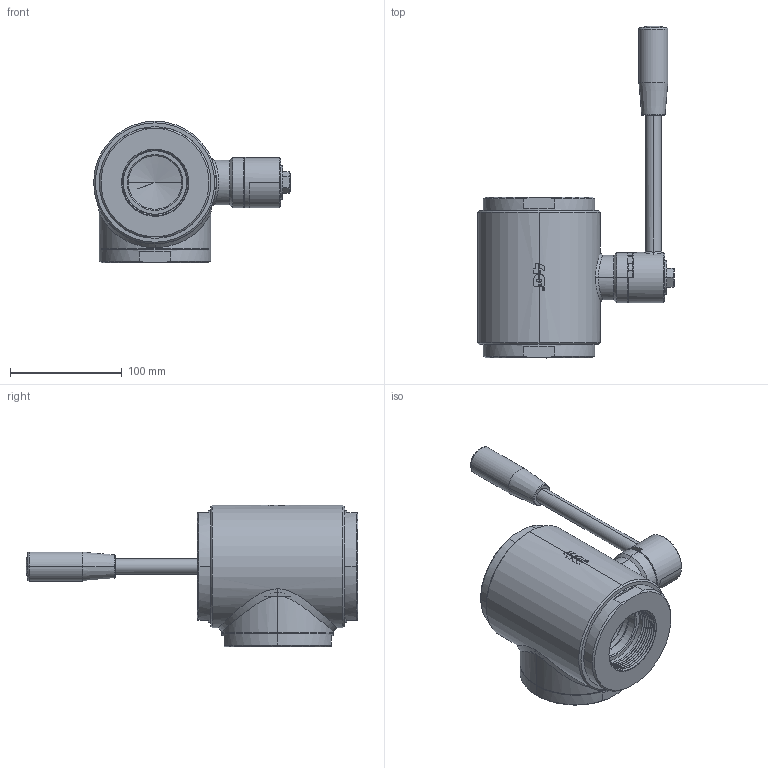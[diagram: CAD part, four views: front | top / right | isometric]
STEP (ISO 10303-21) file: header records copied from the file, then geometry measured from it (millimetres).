
FILE_DESCRIPTION((''),'2;1');
FILE_NAME('31010163810_SW0001','2025-04-11T14:23:24',('tecnico2'),('CDM Tecnoconsulting'),'CREO PARAMETRIC BY PTC INC, 2024063','CREO PARAMETRIC BY PTC INC, 2024063','');
FILE_SCHEMA(('CONFIG_CONTROL_DESIGN','SHAPE_APPEARANCE_LAYERS_GROUPS'));
Products named in the file (1): 31010163810_SW0001
Bounding box: 176.3 x 297.5 x 127 mm (x, y, z)
Volume: 1099826.6 mm3; surface area: 255821.1 mm2
Topology: 1 solids, 2 shells, 1010 faces, 2789 edges, 1776 vertices
Faces by surface type: plane 354, cylinder 303, cone 131, bspline 127, extrusion 56, torus 34, sphere 5
Entity records: 101239 total; most frequent: CARTESIAN_POINT 68388, ORIENTED_EDGE 5542, DIRECTION 4162, PRESENTATION_STYLE_ASSIGNMENT 2837, STYLED_ITEM 2772, CURVE_STYLE 2771, EDGE_CURVE 2771, VERTEX_POINT 1776
